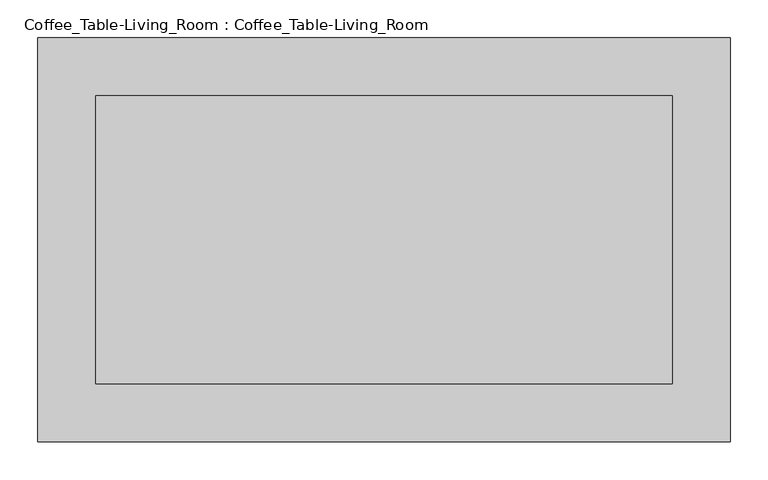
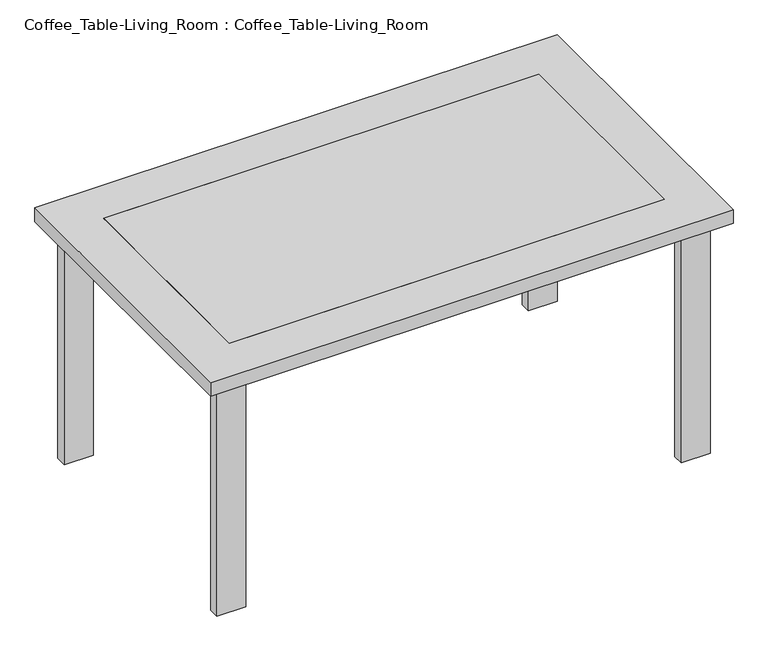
"""IFC4 building model written with IfcOpenShell, lengths in millimetres: furniture geometry, Coffee_Table-Living_Room : Coffee_Table-Living_Room."""

from ifc_helpers import new_model, si_unit, frame, origin, origin_with_axes, place, context, project, spatial, polyline, outline, extrude, source, transform, mapped, element, save


def coffee_table_living_room_coffee_table_living_room_ddab133e(model_context):
    return source(origin(), model_context, "Body", "SweptSolid", [
        extrude(outline(polyline([(381.0, -76.2), (381.0, -457.2), (-381.0, -457.2), (-381.0, -76.2), (381.0, -76.2)])), frame((0.0, 0.0, 431.8), z_axis=(0.0, 0.0, 1.0), x_axis=(1.0, 0.0, 0.0)), (0.0, 0.0, 1.0), 25.4),
        extrude(outline(polyline([(457.2, 0.0), (457.2, -533.4), (-457.2, -533.4), (-457.2, 0.0), (457.2, 0.0)]), holes=[polyline([(381.0, -76.2), (-381.0, -76.2), (-381.0, -457.2), (381.0, -457.2), (381.0, -76.2)])]), frame((0.0, 0.0, 431.8), z_axis=(0.0, 0.0, 1.0), x_axis=(1.0, 0.0, 0.0)), (0.0, 0.0, 1.0), 25.4),
        extrude(outline(polyline([(381.0, -44.45), (381.0, -25.4), (431.8, -25.4), (431.8, -44.45), (381.0, -44.45)])), origin_with_axes(), (0.0, 0.0, 1.0), 431.8),
        extrude(outline(polyline([(381.0, -488.95), (431.8, -488.95), (431.8, -508.0), (381.0, -508.0), (381.0, -488.95)])), origin_with_axes(), (0.0, 0.0, 1.0), 431.8),
        extrude(outline(polyline([(-381.0, -44.45), (-431.8, -44.45), (-431.8, -25.4), (-381.0, -25.4), (-381.0, -44.45)])), origin_with_axes(), (0.0, 0.0, 1.0), 431.8),
        extrude(outline(polyline([(-381.0, -488.95), (-381.0, -508.0), (-431.8, -508.0), (-431.8, -488.95), (-381.0, -488.95)])), origin_with_axes(), (0.0, 0.0, 1.0), 431.8),
    ])


if __name__ == "__main__":
    model = new_model("IFC4")
    model_context = context("Model", 3, world=origin())
    ifc_project = project(units=[si_unit("LENGTHUNIT", "METRE", prefix="MILLI")], contexts=[model_context])
    site = spatial("IfcSite", under=ifc_project)
    building = spatial("IfcBuilding", under=site)
    placement = place(None, origin())
    coffee_table_living_room_coffee_table_living_room_shape = coffee_table_living_room_coffee_table_living_room_ddab133e(model_context)
    element("IfcFurniture", 1, ObjectType="Coffee_Table-Living_Room : Coffee_Table-Living_Room", at=placement, inside=building, context=model_context, shape_type="MappedRepresentation", body=[
        mapped(coffee_table_living_room_coffee_table_living_room_shape, transform((0.0, 0.0, 0.0), x_axis=(1.0, 0.0, 0.0), y_axis=(0.0, 1.0, 0.0), z_axis=(0.0, 0.0, 1.0))),
    ])
    save(model, "model.ifc")
